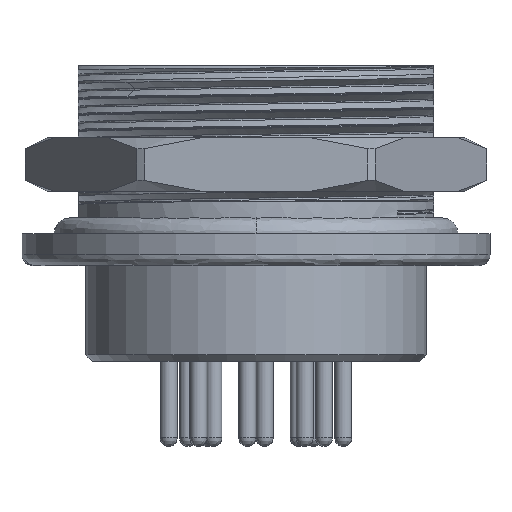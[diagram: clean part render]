
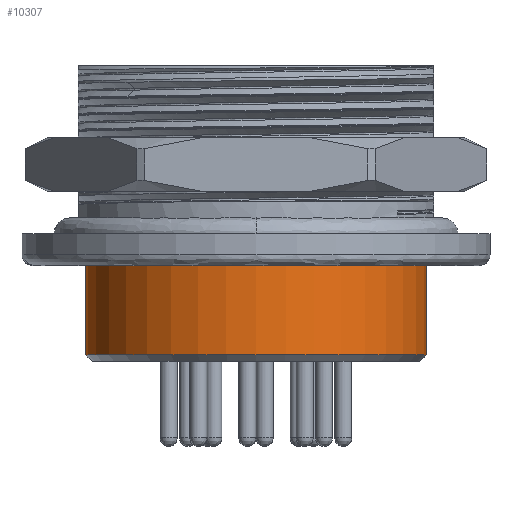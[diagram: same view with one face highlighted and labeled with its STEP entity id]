
A CAD part, front view. The second image highlights one B-rep face of the part: STEP entity #10307.
In plain terms, the highlighted cylindrical face has radius 8 mm (diameter 16 mm), a partial arc.
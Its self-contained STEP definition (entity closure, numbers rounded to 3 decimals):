
#295 = ORIENTED_EDGE ( 'NONE', *, *, #23022, .T. ) ;
#1262 = CARTESIAN_POINT ( 'NONE',  ( -8., 10.5, -9.4 ) ) ;
#2080 = EDGE_CURVE ( 'NONE', #3158, #8188, #14181, .T. ) ;
#3158 = VERTEX_POINT ( 'NONE', #1262 ) ;
#5438 = VERTEX_POINT ( 'NONE', #22484 ) ;
#5501 = DIRECTION ( 'NONE',  ( -1., 0., 0. ) ) ;
#6333 = DIRECTION ( 'NONE',  ( 0., 0., 1. ) ) ;
#6972 = ORIENTED_EDGE ( 'NONE', *, *, #2080, .F. ) ;
#8188 = VERTEX_POINT ( 'NONE', #21230 ) ;
#8198 = ORIENTED_EDGE ( 'NONE', *, *, #22666, .T. ) ;
#9092 = DIRECTION ( 'NONE',  ( -1., 0., 0. ) ) ;
#10307 = ADVANCED_FACE ( 'NONE', ( #13205 ), #18165, .T. ) ;
#10329 = ORIENTED_EDGE ( 'NONE', *, *, #15419, .T. ) ;
#13192 = CARTESIAN_POINT ( 'NONE',  ( -8., 10.5, 0.695 ) ) ;
#13205 = FACE_OUTER_BOUND ( 'NONE', #21622, .T. ) ;
#13593 = DIRECTION ( 'NONE',  ( 0., 0., 1. ) ) ;
#13670 = AXIS2_PLACEMENT_3D ( 'NONE', #20911, #31717, #31216 ) ;
#13778 = VECTOR ( 'NONE', #33969, 1000. ) ;
#14125 = AXIS2_PLACEMENT_3D ( 'NONE', #27642, #6333, #9092 ) ;
#14181 = CIRCLE ( 'NONE', #26232, 8. ) ;
#15055 = CARTESIAN_POINT ( 'NONE',  ( 8., 10.5, 0.695 ) ) ;
#15118 = VERTEX_POINT ( 'NONE', #30767 ) ;
#15419 = EDGE_CURVE ( 'NONE', #15118, #5438, #24521, .T. ) ;
#16517 = VECTOR ( 'NONE', #26484, 1000. ) ;
#18165 = CYLINDRICAL_SURFACE ( 'NONE', #13670, 8. ) ;
#20911 = CARTESIAN_POINT ( 'NONE',  ( 0., 10.5, 0.695 ) ) ;
#21230 = CARTESIAN_POINT ( 'NONE',  ( 8., 10.5, -9.4 ) ) ;
#21622 = EDGE_LOOP ( 'NONE', ( #6972, #8198, #10329, #295 ) ) ;
#22484 = CARTESIAN_POINT ( 'NONE',  ( 8., 10.5, -13.6 ) ) ;
#22666 = EDGE_CURVE ( 'NONE', #3158, #15118, #23637, .T. ) ;
#22756 = LINE ( 'NONE', #15055, #16517 ) ;
#23022 = EDGE_CURVE ( 'NONE', #5438, #8188, #22756, .T. ) ;
#23637 = LINE ( 'NONE', #13192, #13778 ) ;
#24521 = CIRCLE ( 'NONE', #14125, 8. ) ;
#26232 = AXIS2_PLACEMENT_3D ( 'NONE', #26299, #13593, #5501 ) ;
#26299 = CARTESIAN_POINT ( 'NONE',  ( 0., 10.5, -9.4 ) ) ;
#26484 = DIRECTION ( 'NONE',  ( 0., 0., 1. ) ) ;
#27642 = CARTESIAN_POINT ( 'NONE',  ( 0., 10.5, -13.6 ) ) ;
#30767 = CARTESIAN_POINT ( 'NONE',  ( -8., 10.5, -13.6 ) ) ;
#31216 = DIRECTION ( 'NONE',  ( -1., 0., 0. ) ) ;
#31717 = DIRECTION ( 'NONE',  ( 0., 0., -1. ) ) ;
#33969 = DIRECTION ( 'NONE',  ( 0., 0., -1. ) ) ;
